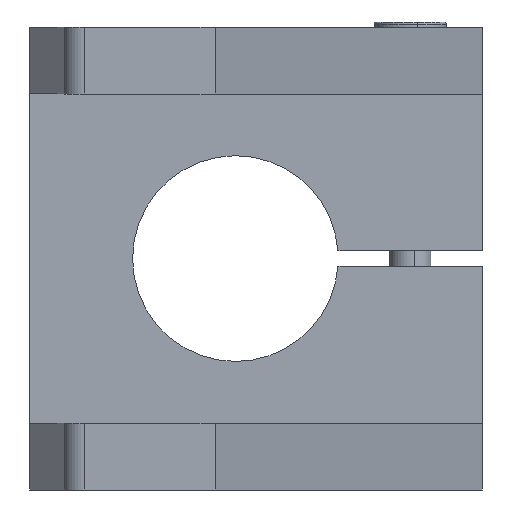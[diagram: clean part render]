
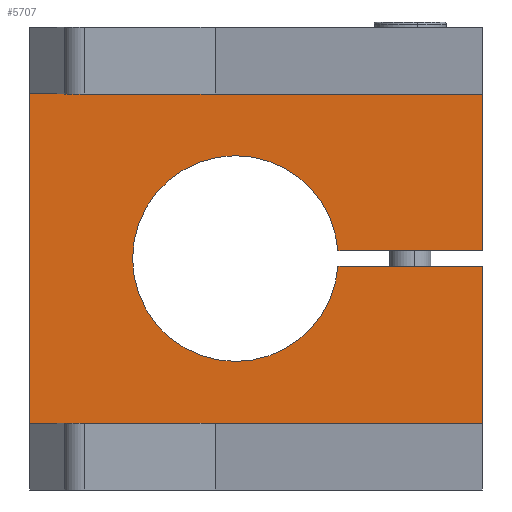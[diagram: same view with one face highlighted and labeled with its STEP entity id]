
A CAD part, left-side view. The second image highlights one B-rep face of the part: STEP entity #5707.
In plain terms, the highlighted planar face has unit normal (-1, 0, 0).
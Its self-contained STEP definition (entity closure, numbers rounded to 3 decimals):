
#120 = CARTESIAN_POINT ( 'NONE',  ( -28.632, 22.166, 0. ) ) ;
#725 = LINE ( 'NONE', #10925, #9152 ) ;
#799 = VERTEX_POINT ( 'NONE', #1577 ) ;
#819 = DIRECTION ( 'NONE',  ( 0., 0., -1. ) ) ;
#832 = VERTEX_POINT ( 'NONE', #6212 ) ;
#943 = VECTOR ( 'NONE', #6059, 1000. ) ;
#1024 = DIRECTION ( 'NONE',  ( 0., 0., 1. ) ) ;
#1323 = EDGE_CURVE ( 'NONE', #11177, #3821, #4879, .T. ) ;
#1577 = CARTESIAN_POINT ( 'NONE',  ( -28.632, 12.195, 0.75 ) ) ;
#1825 = VERTEX_POINT ( 'NONE', #11065 ) ;
#2022 = EDGE_CURVE ( 'NONE', #799, #7485, #8638, .T. ) ;
#2116 = CARTESIAN_POINT ( 'NONE',  ( -28.632, -1.834, 0.75 ) ) ;
#2162 = VERTEX_POINT ( 'NONE', #8589 ) ;
#2198 = CARTESIAN_POINT ( 'NONE',  ( -28.632, 20.166, -16. ) ) ;
#2309 = CARTESIAN_POINT ( 'NONE',  ( -28.632, 42.166, 0. ) ) ;
#2607 = DIRECTION ( 'NONE',  ( 0., 0., 1. ) ) ;
#2682 = CARTESIAN_POINT ( 'NONE',  ( -28.632, 42.166, -16. ) ) ;
#2793 = EDGE_CURVE ( 'NONE', #2162, #3203, #6631, .T. ) ;
#2819 = CARTESIAN_POINT ( 'NONE',  ( -28.632, 20.166, 16. ) ) ;
#2825 = ORIENTED_EDGE ( 'NONE', *, *, #2793, .T. ) ;
#3059 = CARTESIAN_POINT ( 'NONE',  ( -28.632, -1.834, 11.625 ) ) ;
#3150 = DIRECTION ( 'NONE',  ( 0., -1., 0. ) ) ;
#3203 = VERTEX_POINT ( 'NONE', #4941 ) ;
#3310 = ORIENTED_EDGE ( 'NONE', *, *, #7213, .T. ) ;
#3627 = DIRECTION ( 'NONE',  ( 0., -1., 0. ) ) ;
#3780 = EDGE_CURVE ( 'NONE', #10231, #1825, #11069, .T. ) ;
#3805 = LINE ( 'NONE', #2198, #5998 ) ;
#3821 = VERTEX_POINT ( 'NONE', #4997 ) ;
#4078 = VECTOR ( 'NONE', #11258, 1000. ) ;
#4117 = ORIENTED_EDGE ( 'NONE', *, *, #7305, .T. ) ;
#4316 = EDGE_CURVE ( 'NONE', #3821, #10231, #6878, .T. ) ;
#4631 = ORIENTED_EDGE ( 'NONE', *, *, #2022, .T. ) ;
#4879 = LINE ( 'NONE', #9122, #9979 ) ;
#4907 = ORIENTED_EDGE ( 'NONE', *, *, #11365, .T. ) ;
#4941 = CARTESIAN_POINT ( 'NONE',  ( -28.632, 42.166, -16. ) ) ;
#4997 = CARTESIAN_POINT ( 'NONE',  ( -28.632, 12.195, -0.75 ) ) ;
#5212 = ORIENTED_EDGE ( 'NONE', *, *, #3780, .T. ) ;
#5341 = CARTESIAN_POINT ( 'NONE',  ( -28.632, 22.166, 0. ) ) ;
#5504 = LINE ( 'NONE', #2819, #10367 ) ;
#5667 = ORIENTED_EDGE ( 'NONE', *, *, #4316, .T. ) ;
#5707 = ADVANCED_FACE ( 'NONE', ( #8834 ), #6366, .T. ) ;
#5759 = VECTOR ( 'NONE', #819, 1000. ) ;
#5817 = DIRECTION ( 'NONE',  ( 0., 0., 1. ) ) ;
#5846 = DIRECTION ( 'NONE',  ( 1., 0., 0. ) ) ;
#5889 = CARTESIAN_POINT ( 'NONE',  ( -28.632, 22.166, 0. ) ) ;
#5998 = VECTOR ( 'NONE', #3150, 1000. ) ;
#6059 = DIRECTION ( 'NONE',  ( 0., -1., 0. ) ) ;
#6068 = ORIENTED_EDGE ( 'NONE', *, *, #1323, .T. ) ;
#6212 = CARTESIAN_POINT ( 'NONE',  ( -28.632, -1.834, -16. ) ) ;
#6262 = DIRECTION ( 'NONE',  ( 0., 0., 1. ) ) ;
#6366 = PLANE ( 'NONE',  #8405 ) ;
#6432 = CARTESIAN_POINT ( 'NONE',  ( -28.632, 22.166, -10. ) ) ;
#6631 = LINE ( 'NONE', #2309, #5759 ) ;
#6633 = DIRECTION ( 'NONE',  ( 1., 0., 0. ) ) ;
#6878 = CIRCLE ( 'NONE', #9137, 10. ) ;
#6947 = EDGE_LOOP ( 'NONE', ( #6068, #5667, #5212, #4907, #4631, #3310, #9104, #2825, #4117, #7550 ) ) ;
#6986 = AXIS2_PLACEMENT_3D ( 'NONE', #5889, #5846, #5817 ) ;
#7213 = EDGE_CURVE ( 'NONE', #7485, #8410, #9017, .T. ) ;
#7305 = EDGE_CURVE ( 'NONE', #3203, #832, #3805, .T. ) ;
#7485 = VERTEX_POINT ( 'NONE', #2116 ) ;
#7550 = ORIENTED_EDGE ( 'NONE', *, *, #11231, .T. ) ;
#8405 = AXIS2_PLACEMENT_3D ( 'NONE', #2682, #9168, #3627 ) ;
#8410 = VERTEX_POINT ( 'NONE', #10992 ) ;
#8589 = CARTESIAN_POINT ( 'NONE',  ( -28.632, 42.166, 16. ) ) ;
#8638 = LINE ( 'NONE', #10887, #943 ) ;
#8834 = FACE_OUTER_BOUND ( 'NONE', #6947, .T. ) ;
#8877 = EDGE_CURVE ( 'NONE', #8410, #2162, #5504, .T. ) ;
#9017 = LINE ( 'NONE', #3059, #4078 ) ;
#9104 = ORIENTED_EDGE ( 'NONE', *, *, #8877, .T. ) ;
#9122 = CARTESIAN_POINT ( 'NONE',  ( -28.632, 20.166, -0.75 ) ) ;
#9137 = AXIS2_PLACEMENT_3D ( 'NONE', #5341, #11637, #6262 ) ;
#9152 = VECTOR ( 'NONE', #2607, 1000. ) ;
#9168 = DIRECTION ( 'NONE',  ( -1., 0., 0. ) ) ;
#9295 = CIRCLE ( 'NONE', #9640, 10. ) ;
#9313 = DIRECTION ( 'NONE',  ( 0., 1., 0. ) ) ;
#9640 = AXIS2_PLACEMENT_3D ( 'NONE', #120, #6633, #1024 ) ;
#9979 = VECTOR ( 'NONE', #10047, 1000. ) ;
#10047 = DIRECTION ( 'NONE',  ( 0., 1., 0. ) ) ;
#10231 = VERTEX_POINT ( 'NONE', #6432 ) ;
#10367 = VECTOR ( 'NONE', #9313, 1000. ) ;
#10887 = CARTESIAN_POINT ( 'NONE',  ( -28.632, 20.166, 0.75 ) ) ;
#10925 = CARTESIAN_POINT ( 'NONE',  ( -28.632, -1.834, 0. ) ) ;
#10992 = CARTESIAN_POINT ( 'NONE',  ( -28.632, -1.834, 16. ) ) ;
#11065 = CARTESIAN_POINT ( 'NONE',  ( -28.632, 22.166, 10. ) ) ;
#11069 = CIRCLE ( 'NONE', #6986, 10. ) ;
#11177 = VERTEX_POINT ( 'NONE', #11697 ) ;
#11231 = EDGE_CURVE ( 'NONE', #832, #11177, #725, .T. ) ;
#11258 = DIRECTION ( 'NONE',  ( 0., 0., 1. ) ) ;
#11365 = EDGE_CURVE ( 'NONE', #1825, #799, #9295, .T. ) ;
#11637 = DIRECTION ( 'NONE',  ( 1., 0., 0. ) ) ;
#11697 = CARTESIAN_POINT ( 'NONE',  ( -28.632, -1.834, -0.75 ) ) ;
